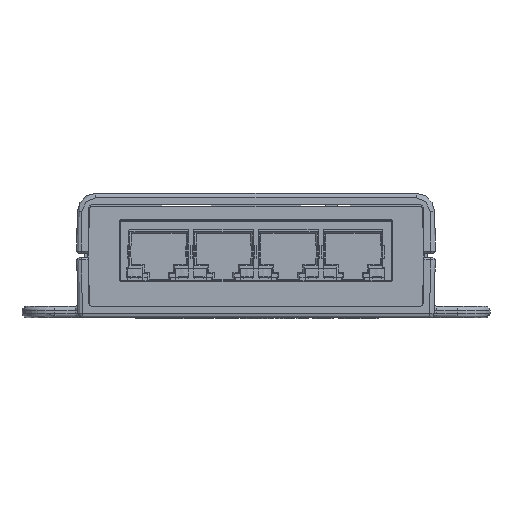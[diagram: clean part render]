
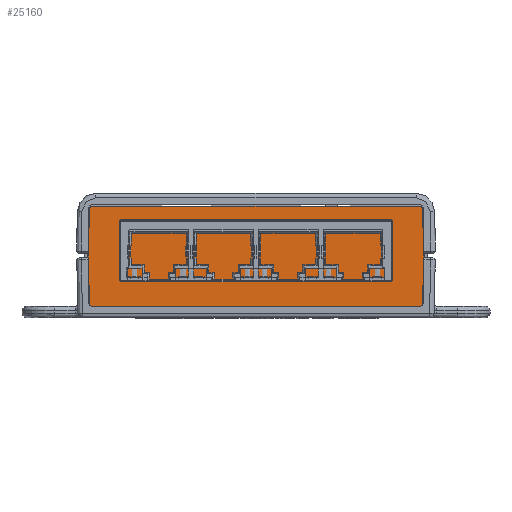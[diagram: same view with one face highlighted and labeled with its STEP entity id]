
A CAD part, front view. The second image highlights one B-rep face of the part: STEP entity #25160.
In plain terms, the highlighted planar face has unit normal (0, -1, 0) as drawn and (0, 0, 1) by its records, which use the part's own axes.
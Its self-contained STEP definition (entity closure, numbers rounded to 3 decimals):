
#25160=ADVANCED_FACE('NONE',(#50912),#50913,.T.);
#50912=FACE_OUTER_BOUND('',#81472,.T.);
#50913=PLANE('',#81473);
#81472=EDGE_LOOP('',(#161692,#161693,#161694,#161695,#161696,#161697,#161698,#161699,#161700,#161701));
#81473=AXIS2_PLACEMENT_3D('',#161702,#161703,#161704);
#161692=ORIENTED_EDGE('',*,*,#200011,.T.);
#161693=ORIENTED_EDGE('',*,*,#200150,.T.);
#161694=ORIENTED_EDGE('',*,*,#200146,.T.);
#161695=ORIENTED_EDGE('',*,*,#200129,.T.);
#161696=ORIENTED_EDGE('',*,*,#200151,.T.);
#161697=ORIENTED_EDGE('',*,*,#200132,.T.);
#161698=ORIENTED_EDGE('',*,*,#200152,.T.);
#161699=ORIENTED_EDGE('',*,*,#200137,.T.);
#161700=ORIENTED_EDGE('',*,*,#200144,.T.);
#161701=ORIENTED_EDGE('',*,*,#200153,.T.);
#161702=CARTESIAN_POINT('',(0.0,0.0,1.3));
#161703=DIRECTION('',(-0.0,0.0,1.0));
#161704=DIRECTION('',(1.0,0.0,0.0));
#200011=EDGE_CURVE('NONE',#248129,#248127,#248130,.T.);
#200129=EDGE_CURVE('NONE',#248360,#248358,#248361,.T.);
#200132=EDGE_CURVE('NONE',#248364,#248365,#248366,.T.);
#200137=EDGE_CURVE('NONE',#248373,#248374,#248375,.T.);
#200144=EDGE_CURVE('NONE',#248374,#248384,#248386,.T.);
#200146=EDGE_CURVE('NONE',#248388,#248360,#248389,.T.);
#200150=EDGE_CURVE('NONE',#248127,#248388,#248394,.T.);
#200151=EDGE_CURVE('NONE',#248358,#248364,#248395,.T.);
#200152=EDGE_CURVE('NONE',#248365,#248373,#248396,.T.);
#200153=EDGE_CURVE('NONE',#248384,#248129,#248397,.T.);
#248127=VERTEX_POINT('NONE',#319579);
#248129=VERTEX_POINT('NONE',#319582);
#248130=LINE('',#319583,#319584);
#248358=VERTEX_POINT('NONE',#320415);
#248360=VERTEX_POINT('NONE',#320418);
#248361=LINE('',#320419,#320420);
#248364=VERTEX_POINT('NONE',#320424);
#248365=VERTEX_POINT('NONE',#320425);
#248366=LINE('',#320426,#320427);
#248373=VERTEX_POINT('NONE',#320437);
#248374=VERTEX_POINT('NONE',#320438);
#248375=LINE('',#320439,#320440);
#248384=VERTEX_POINT('NONE',#320453);
#248386=LINE('',#320456,#320457);
#248388=VERTEX_POINT('NONE',#320459);
#248389=LINE('',#320460,#320461);
#248394=CIRCLE('',#320468,0.5);
#248395=CIRCLE('',#320469,0.5);
#248396=CIRCLE('',#320470,0.5);
#248397=CIRCLE('',#320471,0.5);
#319579=CARTESIAN_POINT('',(-35.395,21.777,1.3));
#319582=CARTESIAN_POINT('',(35.395,21.777,1.3));
#319583=CARTESIAN_POINT('',(-35.9,21.777,1.3));
#319584=VECTOR('',#354050,1000.0);
#320415=CARTESIAN_POINT('',(-35.895,0.505,1.3));
#320418=CARTESIAN_POINT('',(-36.258,10.9,1.3));
#320419=CARTESIAN_POINT('',(-36.258,10.901,1.3));
#320420=VECTOR('',#354135,1000.0);
#320424=CARTESIAN_POINT('',(-35.395,0.023,1.3));
#320425=CARTESIAN_POINT('',(35.395,0.023,1.3));
#320426=CARTESIAN_POINT('',(-35.9,0.023,1.3));
#320427=VECTOR('',#354137,1000.0);
#320437=CARTESIAN_POINT('',(35.895,0.505,1.3));
#320438=CARTESIAN_POINT('',(36.258,10.9,1.3));
#320439=CARTESIAN_POINT('',(36.258,10.901,1.3));
#320440=VECTOR('',#354141,1000.0);
#320453=CARTESIAN_POINT('',(35.895,21.295,1.3));
#320456=CARTESIAN_POINT('',(35.877,21.799,1.3));
#320457=VECTOR('',#354147,1000.0);
#320459=CARTESIAN_POINT('',(-35.895,21.295,1.3));
#320460=CARTESIAN_POINT('',(-35.877,21.799,1.3));
#320461=VECTOR('',#354148,1000.0);
#320468=AXIS2_PLACEMENT_3D('',#354151,#354152,#354153);
#320469=AXIS2_PLACEMENT_3D('',#354154,#354155,#354156);
#320470=AXIS2_PLACEMENT_3D('',#354157,#354158,#354159);
#320471=AXIS2_PLACEMENT_3D('',#354160,#354161,#354162);
#354050=DIRECTION('',(-1.0,0.0,-0.0));
#354135=DIRECTION('',(0.035,-0.999,0.0));
#354137=DIRECTION('',(1.0,-0.0,-0.0));
#354141=DIRECTION('',(0.035,0.999,0.));
#354147=DIRECTION('',(-0.035,0.999,-0.0));
#354148=DIRECTION('',(-0.035,-0.999,-0.0));
#354151=CARTESIAN_POINT('',(-35.395,21.277,1.3));
#354152=DIRECTION('',(0.0,-0.0,1.0));
#354153=DIRECTION('',(0.,1.,0.0));
#354154=CARTESIAN_POINT('',(-35.395,0.523,1.3));
#354155=DIRECTION('',(0.0,0.0,1.0));
#354156=DIRECTION('',(-0.999,-0.035,0.0));
#354157=CARTESIAN_POINT('',(35.395,0.523,1.3));
#354158=DIRECTION('',(0.0,0.0,1.0));
#354159=DIRECTION('',(0.,-1.,0.0));
#354160=CARTESIAN_POINT('',(35.395,21.277,1.3));
#354161=DIRECTION('',(0.,0.,1.0));
#354162=DIRECTION('',(0.999,0.035,0.));
